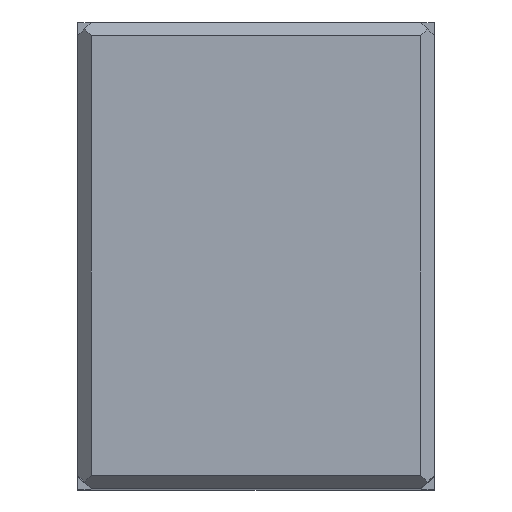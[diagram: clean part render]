
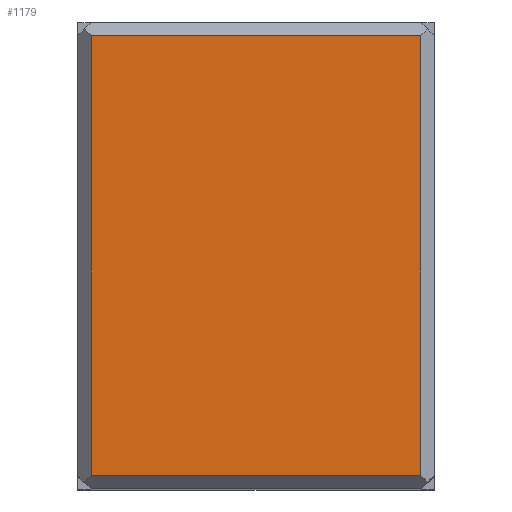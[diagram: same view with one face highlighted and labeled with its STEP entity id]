
A CAD part, top view. The second image highlights one B-rep face of the part: STEP entity #1179.
In plain terms, the highlighted planar face has unit normal (0, 0, 1).
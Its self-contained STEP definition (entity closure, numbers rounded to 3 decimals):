
#86 = CARTESIAN_POINT ( 'NONE',  ( -9.7, -12.95, 35. ) ) ;
#240 = LINE ( 'NONE', #604, #2194 ) ;
#294 = ORIENTED_EDGE ( 'NONE', *, *, #1025, .T. ) ;
#433 = CARTESIAN_POINT ( 'NONE',  ( 9.7, -12.95, 35. ) ) ;
#572 = CARTESIAN_POINT ( 'NONE',  ( 9.7, 12.95, 35. ) ) ;
#604 = CARTESIAN_POINT ( 'NONE',  ( -9.7, -13.75, 35. ) ) ;
#746 = CARTESIAN_POINT ( 'NONE',  ( 10.5, -12.95, 35. ) ) ;
#1025 = EDGE_CURVE ( 'NONE', #3224, #1165, #3335, .T. ) ;
#1120 = LINE ( 'NONE', #746, #1908 ) ;
#1165 = VERTEX_POINT ( 'NONE', #1465 ) ;
#1179 = ADVANCED_FACE ( 'NONE', ( #2980 ), #4109, .T. ) ;
#1212 = EDGE_LOOP ( 'NONE', ( #1318, #294, #3686, #1764 ) ) ;
#1290 = LINE ( 'NONE', #3169, #2571 ) ;
#1318 = ORIENTED_EDGE ( 'NONE', *, *, #1731, .T. ) ;
#1465 = CARTESIAN_POINT ( 'NONE',  ( -9.7, 12.95, 35. ) ) ;
#1472 = DIRECTION ( 'NONE',  ( 0., 1., 0. ) ) ;
#1497 = CARTESIAN_POINT ( 'NONE',  ( 0., 0., 35. ) ) ;
#1585 = VERTEX_POINT ( 'NONE', #433 ) ;
#1632 = DIRECTION ( 'NONE',  ( 0., -1., 0. ) ) ;
#1712 = AXIS2_PLACEMENT_3D ( 'NONE', #1497, #2812, #2760 ) ;
#1731 = EDGE_CURVE ( 'NONE', #1585, #3224, #1290, .T. ) ;
#1764 = ORIENTED_EDGE ( 'NONE', *, *, #3792, .T. ) ;
#1908 = VECTOR ( 'NONE', #3749, 1000. ) ;
#2194 = VECTOR ( 'NONE', #1632, 1000. ) ;
#2571 = VECTOR ( 'NONE', #1472, 1000. ) ;
#2624 = VERTEX_POINT ( 'NONE', #86 ) ;
#2760 = DIRECTION ( 'NONE',  ( 1., 0., 0. ) ) ;
#2812 = DIRECTION ( 'NONE',  ( 0., 0., 1. ) ) ;
#2873 = VECTOR ( 'NONE', #3076, 1000. ) ;
#2980 = FACE_OUTER_BOUND ( 'NONE', #1212, .T. ) ;
#3076 = DIRECTION ( 'NONE',  ( -1., 0., 0. ) ) ;
#3169 = CARTESIAN_POINT ( 'NONE',  ( 9.7, 13.75, 35. ) ) ;
#3224 = VERTEX_POINT ( 'NONE', #572 ) ;
#3335 = LINE ( 'NONE', #4043, #2873 ) ;
#3686 = ORIENTED_EDGE ( 'NONE', *, *, #4209, .T. ) ;
#3749 = DIRECTION ( 'NONE',  ( 1., 0., 0. ) ) ;
#3792 = EDGE_CURVE ( 'NONE', #2624, #1585, #1120, .T. ) ;
#4043 = CARTESIAN_POINT ( 'NONE',  ( -10.5, 12.95, 35. ) ) ;
#4109 = PLANE ( 'NONE',  #1712 ) ;
#4209 = EDGE_CURVE ( 'NONE', #1165, #2624, #240, .T. ) ;
